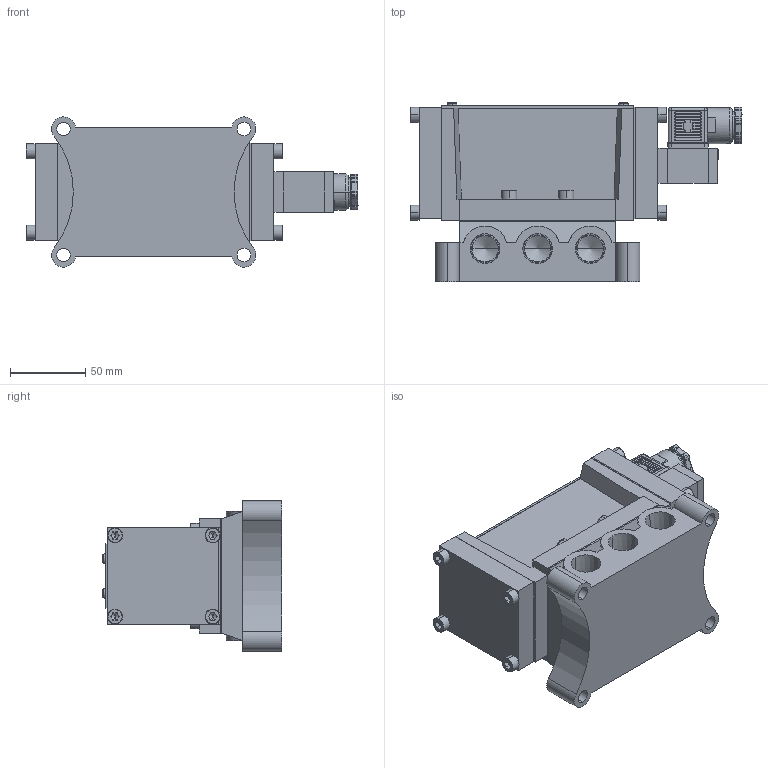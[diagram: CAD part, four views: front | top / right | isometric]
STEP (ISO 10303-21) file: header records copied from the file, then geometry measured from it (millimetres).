
FILE_DESCRIPTION (( 'STEP AP203' ), '1' );
FILE_NAME ('PMS2415#-04-#C#.STEP', '2016-03-09T08:44:39', ( 'Sam Lin' ), ( '' ), 'SwSTEP 2.0', 'SolidWorks 2013', '' );
FILE_SCHEMA (( 'CONFIG_CONTROL_DESIGN' ));
Length unit declared in the file: metre
Products named in the file (16): PM06-C4_1; PM06-C5_1; PMS2415-1; PMS2415-7; PMS2415-6; PMS2415#-04-#C#; PMS2415-5; PM06-C1_1; PMS2415-2; PMS2415-3; PMS2306-6(C); PMS2415-4; PM15-MARK-24; PM06-C3-M4_1; ISO 4762 M6 x 12; PM06-C6-M3_1
Assembly tree (30 placements, depth 2):
  PMS2415#-04-#C#
    PMS2415-1
    PMS2415-2
    PMS2415-3
    PMS2415-4  x2
    PM15-MARK-24
    PMS2415-5
    PM06-C3-M4_1  x3
    ISO 4762 M6 x 12  x12
    PM06-C1_1
    PM06-C4_1
    PM06-C6-M3_1  x2
    PM06-C5_1
    PMS2306-6(C)
    PMS2415-7
    PMS2415-6
Bounding box: 221 x 119.55 x 99.99 mm (x, y, z)
Volume: 1065033.3 mm3; surface area: 190297.3 mm2
Topology: 36 solids, 36 shells, 1108 faces, 2700 edges, 1568 vertices
Faces by surface type: plane 487, cylinder 280, bspline 230, cone 111
Entity records: 29162 total; most frequent: CARTESIAN_POINT 11804, ORIENTED_EDGE 3260, DIRECTION 3010, EDGE_CURVE 1630, AXIS2_PLACEMENT_3D 1098, VERTEX_POINT 1028, LINE 814, VECTOR 814
